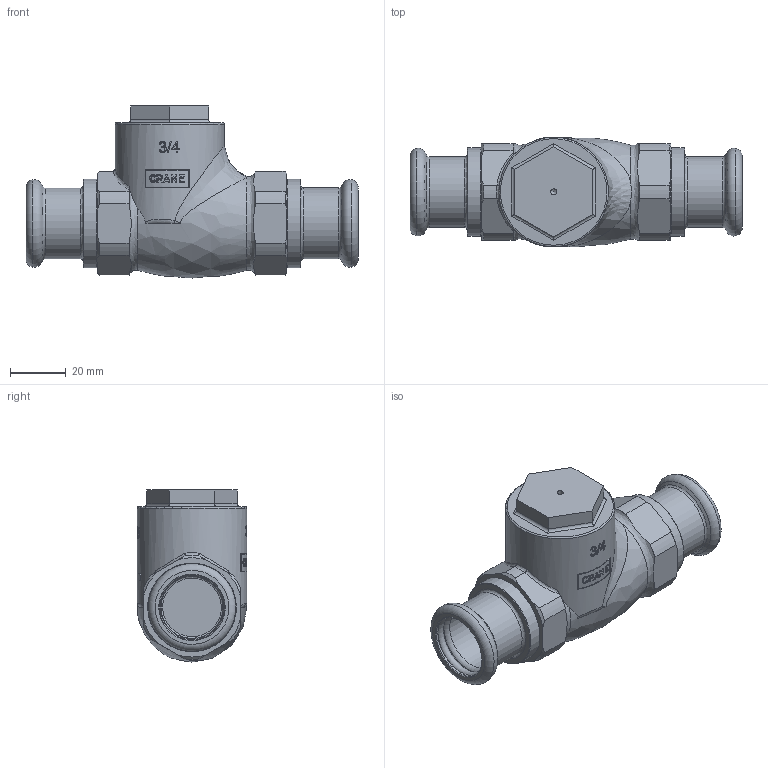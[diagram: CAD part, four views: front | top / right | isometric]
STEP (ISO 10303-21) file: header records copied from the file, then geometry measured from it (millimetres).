
FILE_DESCRIPTION((''),'2;1');
FILE_NAME('P:\Fastrack\53972_CRANE 3D\Push Fit\D138_PF-22mm.stp','2011-08-23T12:53:13',('btaylor'),(''),'Autodesk Inventor 2008','Autodesk Inventor 2008','');
FILE_SCHEMA(('AUTOMOTIVE_DESIGN { 1 0 10303 214 1 1 1 1 }'));
Length unit declared in the file: millimetre
Products named in the file (1): D138_PF-22mm
Bounding box: 119 x 39.4 x 61.7 mm (x, y, z)
Volume: 94382.6 mm3; surface area: 29154.4 mm2
Topology: 1 solids, 4 shells, 460 faces, 1246 edges, 819 vertices
Faces by surface type: bspline 228, plane 125, cylinder 57, cone 41, torus 9
Full cylindrical faces by diameter (mm): 22.2 x2, 23.2 x2, 25.4 x2, 31.8 x2, 39.2 x1
Entity records: 55614 total; most frequent: CARTESIAN_POINT 45891, ORIENTED_EDGE 2392, DIRECTION 1269, EDGE_CURVE 1196, VERTEX_POINT 814, B_SPLINE_CURVE_WITH_KNOTS 542, EDGE_LOOP 530, FACE_OUTER_BOUND 460
